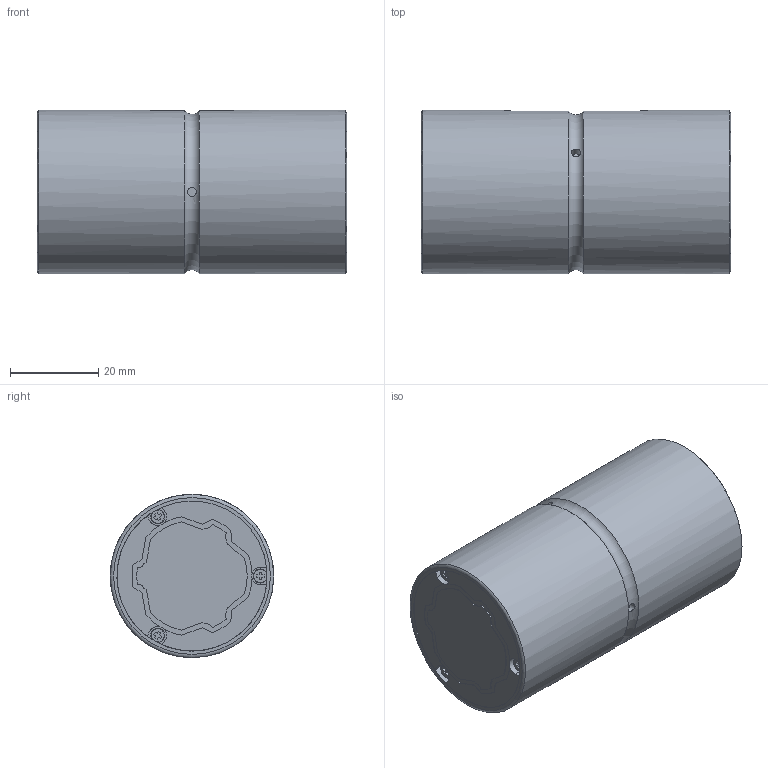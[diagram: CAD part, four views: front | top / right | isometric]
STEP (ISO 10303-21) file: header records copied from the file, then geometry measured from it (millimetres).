
FILE_DESCRIPTION(/* description */ ('STEP AP203'),/* implementation_level */ '2;1');
FILE_NAME(/* name */ 'SLS25L170(00)',/* time_stamp */ '2024-05-23T11:46:37+02:00',/* author */ ('License CC BY-ND 4.0'),/* organization */ ('CADENAS'),/* preprocessor_version */ 'ST-DEVELOPER v19.3',/* originating_system */ 'PARTsolutions',/* authorisation */ ' ');
FILE_SCHEMA (('CONFIG_CONTROL_DESIGN'));
Length unit declared in the file: millimetre
Products named in the file (3): SLS25L170(00); 25(L70); 25L cylinder
Assembly tree (2 placements, depth 2):
  SLS25L170(00)
    25(L70)
    25L cylinder
Bounding box: 70 x 37 x 37 mm (x, y, z)
Volume: 74329.8 mm3; surface area: 22140.1 mm2
Topology: 2 solids, 2 shells, 276 faces, 778 edges, 517 vertices
Faces by surface type: plane 168, cylinder 99, torus 9
Full cylindrical faces by diameter (mm): 2 x3, 34 x2, 37 x2
Entity records: 8994 total; most frequent: CARTESIAN_POINT 1661, DIRECTION 1530, ORIENTED_EDGE 1524, EDGE_CURVE 762, LINE 514, VECTOR 514, VERTEX_POINT 510, AXIS2_PLACEMENT_3D 508
